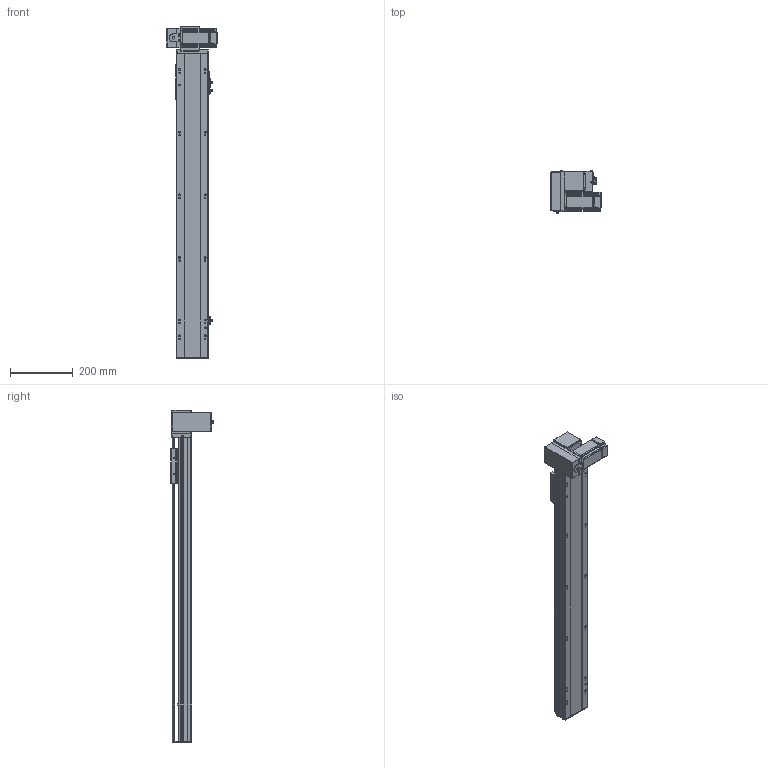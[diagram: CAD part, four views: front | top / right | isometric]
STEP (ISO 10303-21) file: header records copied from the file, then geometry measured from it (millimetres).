
FILE_DESCRIPTION (( 'STEP AP214' ), '1' );
FILE_NAME ('TPT10-L41.6-750-LD-T20-C4.STEP', '2023-03-02T05:53:55', ( '' ), ( '' ), 'SwSTEP 2.0', 'SolidWorks 2020', '' );
FILE_SCHEMA (( 'AUTOMOTIVE_DESIGN' ));
Length unit declared in the file: millimetre
Products named in the file (11): TPT10-L41.6-750-LD-T20-C4; 葩璃 pm-t65-672^TPT10-L41.6-LD-T20-C4; 葩璃 TPT10-L-005 賑釱MZ-102A-03^TPT10-L41.6-LD-T20-C4; 葩璃 TPT10-L-001 菁釱MZ-102A-01^TPT10-L41.6-LD-T20-C4; 葩璃 TPT10-L-007 々湍釱MZ-169x88^TPT10-L41.6-LD-T20-C4_L; hexagon head bolts-full thread gb_GB_FASTENER_BOLT_STBAB A M5X16-N; 葩璃 TPT10-L-002 奻裔MZ-102A-02^TPT10-L41.6-LD-T20-C4; 葩璃 侂狟400W^TPT10-L41.6-LD-T20-C4; hex nuts, style 1-grades ab gb_GB_FASTENER_NUT_SNAB1 M3-N; 葩璃 TPT10-L-009 萇儂啣^TPT10-L41.6-LD-T20-C4_100W; hexagon socket head cap screws gb_GB_FASTENER_SCREWS_HSHCS M3X6-N
Assembly tree (22 placements, depth 2):
  TPT10-L41.6-750-LD-T20-C4
    葩璃 TPT10-L-001 菁釱MZ-102A-01^TPT10-L41.6-LD-T20-C4
    葩璃 TPT10-L-002 奻裔MZ-102A-02^TPT10-L41.6-LD-T20-C4
    葩璃 TPT10-L-007 々湍釱MZ-169x88^TPT10-L41.6-LD-T20-C4_L
    葩璃 TPT10-L-005 賑釱MZ-102A-03^TPT10-L41.6-LD-T20-C4
    葩璃 TPT10-L-009 萇儂啣^TPT10-L41.6-LD-T20-C4_100W
    葩璃 pm-t65-672^TPT10-L41.6-LD-T20-C4  x3
    葩璃 侂狟400W^TPT10-L41.6-LD-T20-C4
    hexagon head bolts-full thread gb_GB_FASTENER_BOLT_STBAB A M5X16-N
    hexagon socket head cap screws gb_GB_FASTENER_SCREWS_HSHCS M3X6-N  x6
    hex nuts, style 1-grades ab gb_GB_FASTENER_NUT_SNAB1 M3-N  x6
Bounding box: 160.5 x 134.65 x 1060 mm (x, y, z)
Volume: 3657986.6 mm3; surface area: 747320.3 mm2
Topology: 30 solids, 30 shells, 1682 faces, 4389 edges, 2794 vertices
Faces by surface type: plane 946, cylinder 512, cone 186, bspline 26, torus 12
Entity records: 40847 total; most frequent: CARTESIAN_POINT 7980, DIRECTION 6614, ORIENTED_EDGE 6398, EDGE_CURVE 3199, AXIS2_PLACEMENT_3D 2299, VERTEX_POINT 2085, VECTOR 2016, LINE 2016
